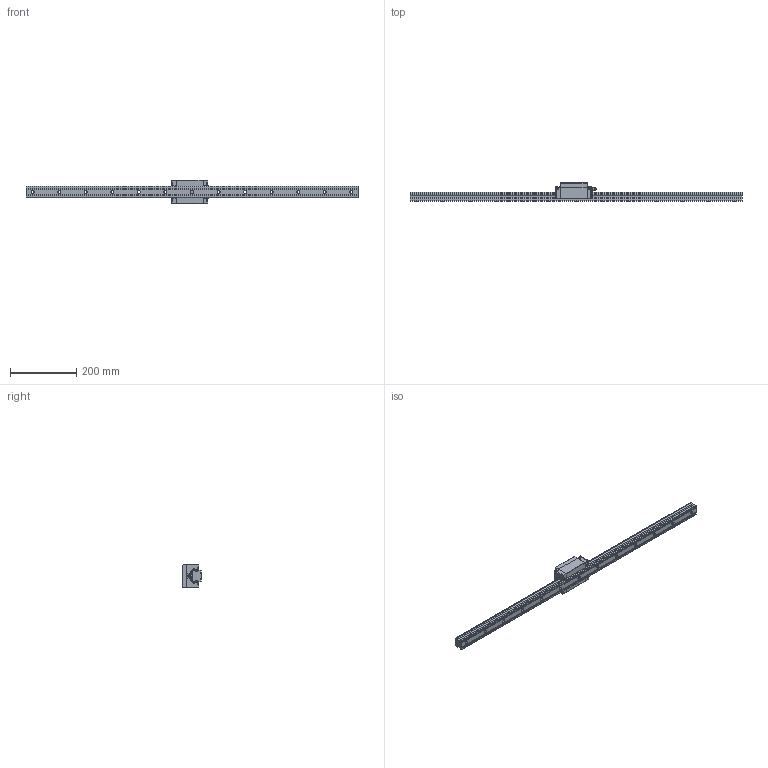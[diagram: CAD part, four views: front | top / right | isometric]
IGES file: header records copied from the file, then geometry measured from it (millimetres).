
Start section: SolidWorks IGES file using analytic representation for surfaces
Global section: file name: C:\Users\tsuch\OneDrive\デスクトップ\EG35関連修正(3D)\EGH35.IGS; native system: SolidWorks 2019; preprocessor: SolidWorks 2019; author: tsuch; date: 210706.144656; units: millimetre
Bounding box: 1000 x 55 x 70 mm (x, y, z)
Surface area: 187333.3 mm2 (no closed solid volume)
Topology: 0 solids, 0 shells, 565 faces, 6331 edges, 6323 vertices
Faces by surface type: bspline 353, revolution 212
